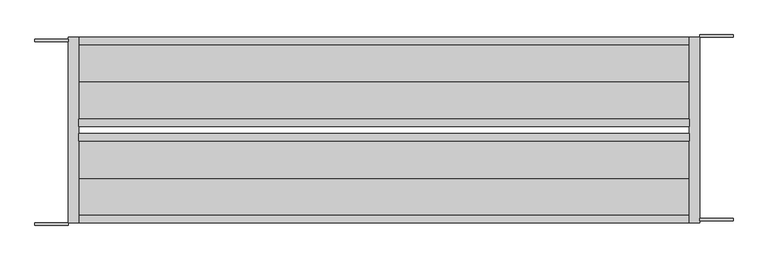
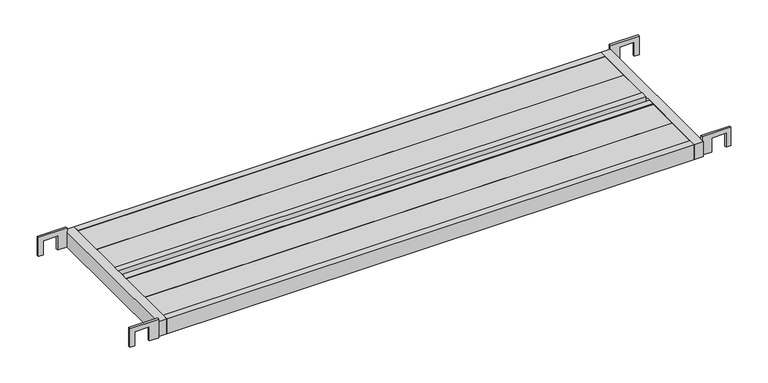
"""IFC4 building model written with IfcOpenShell, lengths in millimetres: proxy geometry, AKK布板HF-518_斜線なし_軽 : 鋼製布板 HF-518."""

from ifc_helpers import new_model, si_unit, frame, origin, place, context, project, spatial, polyline, outline, extrude, source, transform, mapped, element, save


def generic_models_88d3360a(model_context):
    return source(origin(), model_context, "Body", "SweptSolid", [
        extrude(outline(polyline([(37.5, 1762.5), (-24.1, 1762.5), (-24.1, 1792.0), (22.0, 1792.0), (22.0, 1837.0), (-24.1, 1837.0), (-24.1, 1852.0), (37.5, 1852.0), (37.5, 1762.5)])), frame((0.0, 12.0, 0.0), z_axis=(0.0, 1.0, 0.0), x_axis=(0.0, 0.0, 1.0)), (0.0, 0.0, 1.0), 6.0),
        extrude(outline(polyline([(37.5, 1762.5), (-24.1, 1762.5), (-24.1, 1792.0), (22.0, 1792.0), (22.0, 1837.0), (-24.1, 1837.0), (-24.1, 1852.0), (37.5, 1852.0), (37.5, 1762.5)])), frame((0.0, 506.0, 0.0), z_axis=(0.0, 1.0, 0.0), x_axis=(0.0, 0.0, 1.0)), (0.0, 0.0, 1.0), 6.0),
        extrude(outline(polyline([(37.5, -23.0), (-24.1, -23.0), (-24.1, -8.0), (22.0, -8.0), (22.0, 37.0), (-24.1, 37.0), (-24.1, 66.5), (37.5, 66.5), (37.5, -23.0)])), frame((0.0, 0.0, 0.0), z_axis=(0.0, 1.0, 0.0), x_axis=(0.0, 0.0, 1.0)), (0.0, 0.0, 1.0), 6.0),
        extrude(outline(polyline([(37.5, -23.0), (-24.1, -23.0), (-24.1, -8.0), (22.0, -8.0), (22.0, 37.0), (-24.1, 37.0), (-24.1, 66.5), (37.5, 66.5), (37.5, -23.0)])), frame((0.0, 494.0, 0.0), z_axis=(0.0, 1.0, 0.0), x_axis=(0.0, 0.0, 1.0)), (0.0, 0.0, 1.0), 6.0),
        extrude(outline(polyline([(1734.5, 486.0), (1734.5, 386.0), (94.5, 386.0), (94.5, 486.0), (1734.5, 486.0)])), frame((0.0, 0.0, 17.5), z_axis=(0.0, 0.0, 1.0), x_axis=(1.0, 0.0, 0.0)), (0.0, 0.0, 1.0), 5.0),
        extrude(outline(polyline([(1734.5, 386.0), (1734.5, 286.0), (94.5, 286.0), (94.5, 386.0), (1734.5, 386.0)])), frame((0.0, 0.0, 17.5), z_axis=(0.0, 0.0, 1.0), x_axis=(1.0, 0.0, 0.0)), (0.0, 0.0, 1.0), 5.0),
        extrude(outline(polyline([(1734.5, 226.0), (1734.5, 126.0), (94.5, 126.0), (94.5, 226.0), (1734.5, 226.0)])), frame((0.0, 0.0, 17.5), z_axis=(0.0, 0.0, 1.0), x_axis=(1.0, 0.0, 0.0)), (0.0, 0.0, 1.0), 5.0),
        extrude(outline(polyline([(1734.5, 126.0), (1734.5, 26.0), (94.5, 26.0), (94.5, 126.0), (1734.5, 126.0)])), frame((0.0, 0.0, 17.5), z_axis=(0.0, 0.0, 1.0), x_axis=(1.0, 0.0, 0.0)), (0.0, 0.0, 1.0), 5.0),
        extrude(outline(polyline([(1734.5, 286.0), (1734.5, 266.0), (94.5, 266.0), (94.5, 286.0), (1734.5, 286.0)])), frame((0.0, 0.0, -25.0), z_axis=(0.0, 0.0, 1.0), x_axis=(1.0, 0.0, 0.0)), (0.0, 0.0, 1.0), 50.0),
        extrude(outline(polyline([(1734.5, 246.0), (1734.5, 226.0), (94.5, 226.0), (94.5, 246.0), (1734.5, 246.0)])), frame((0.0, 0.0, -25.0), z_axis=(0.0, 0.0, 1.0), x_axis=(1.0, 0.0, 0.0)), (0.0, 0.0, 1.0), 50.0),
        extrude(outline(polyline([(1734.5, 6.0), (1734.5, 506.0), (1762.5, 506.0), (1762.5, 6.0), (1734.5, 6.0)])), frame((0.0, 0.0, -25.0), z_axis=(0.0, 0.0, 1.0), x_axis=(1.0, 0.0, 0.0)), (0.0, 0.0, 1.0), 50.0),
        extrude(outline(polyline([(66.5, 6.0), (66.5, 506.0), (94.5, 506.0), (94.5, 6.0), (66.5, 6.0)])), frame((0.0, 0.0, -25.0), z_axis=(0.0, 0.0, 1.0), x_axis=(1.0, 0.0, 0.0)), (0.0, 0.0, 1.0), 50.0),
        extrude(outline(polyline([(1734.5, 506.0), (1734.5, 486.0), (94.5, 486.0), (94.5, 506.0), (1734.5, 506.0)])), frame((0.0, 0.0, -25.0), z_axis=(0.0, 0.0, 1.0), x_axis=(1.0, 0.0, 0.0)), (0.0, 0.0, 1.0), 50.0),
        extrude(outline(polyline([(1734.5, 26.0), (1734.5, 6.0), (94.5, 6.0), (94.5, 26.0), (1734.5, 26.0)])), frame((0.0, 0.0, -25.0), z_axis=(0.0, 0.0, 1.0), x_axis=(1.0, 0.0, 0.0)), (0.0, 0.0, 1.0), 50.0),
    ])


if __name__ == "__main__":
    model = new_model("IFC4")
    model_context = context("Model", 3, world=origin())
    ifc_project = project(units=[si_unit("LENGTHUNIT", "METRE", prefix="MILLI")], contexts=[model_context])
    site = spatial("IfcSite", under=ifc_project)
    building = spatial("IfcBuilding", under=site)
    placement = place(None, origin())
    generic_models_shape = generic_models_88d3360a(model_context)
    element("IfcBuildingElementProxy", 1, Name="AKK布板HF-518_斜線なし_軽 : 鋼製布板 HF-518", ObjectType="AKK布板HF-518_斜線なし_軽 : 鋼製布板 HF-518", at=placement, inside=building, context=model_context, shape_type="MappedRepresentation", body=[
        mapped(generic_models_shape, transform((0.0, 0.0, 0.0), x_axis=(1.0, 0.0, 0.0), y_axis=(0.0, 1.0, 0.0), z_axis=(0.0, 0.0, 1.0))),
    ])
    save(model, "model.ifc")
